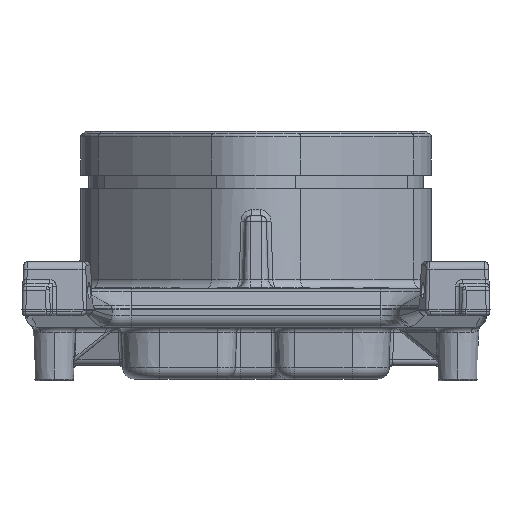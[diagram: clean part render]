
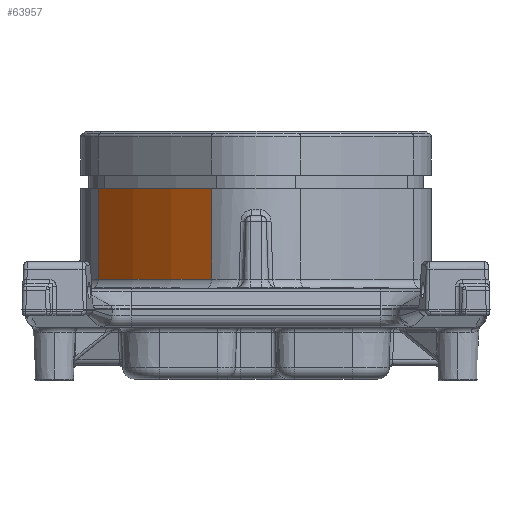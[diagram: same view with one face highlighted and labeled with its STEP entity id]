
A CAD part, left-side view. The second image highlights one B-rep face of the part: STEP entity #63957.
In plain terms, the highlighted cylindrical face has radius 150 mm (diameter 300 mm), a partial arc.
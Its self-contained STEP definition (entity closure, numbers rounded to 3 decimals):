
#18488=AXIS2_PLACEMENT_3D('Circle Axis2P3D',#18486,#18487,$) ;
#63930=AXIS2_PLACEMENT_3D('Cylinder Axis2P3D',#63927,#63928,#63929) ;
#63941=AXIS2_PLACEMENT_3D('Circle Axis2P3D',#63939,#63940,$) ;
#16159=CARTESIAN_POINT('Vertex',(-77.436,11.538,9.5)) ;
#18459=CARTESIAN_POINT('Vertex',(-49.993,41.019,9.5)) ;
#18486=CARTESIAN_POINT('Axis2P3D Location',(45.084,-75.,9.5)) ;
#63927=CARTESIAN_POINT('Axis2P3D Location',(45.084,-75.,24.)) ;
#63932=CARTESIAN_POINT('Line Origine',(-77.436,11.538,24.)) ;
#63936=CARTESIAN_POINT('Vertex',(-77.436,11.538,33.)) ;
#63939=CARTESIAN_POINT('Axis2P3D Location',(45.084,-75.,33.)) ;
#63943=CARTESIAN_POINT('Vertex',(-49.993,41.019,33.)) ;
#63946=CARTESIAN_POINT('Line Origine',(-49.993,41.019,24.)) ;
#18487=DIRECTION('Axis2P3D Direction',(-0.,0.,1.)) ;
#63928=DIRECTION('Axis2P3D Direction',(0.,0.,1.)) ;
#63929=DIRECTION('Axis2P3D XDirection',(-0.634,0.773,0.)) ;
#63933=DIRECTION('Vector Direction',(0.,0.,1.)) ;
#63940=DIRECTION('Axis2P3D Direction',(0.,0.,1.)) ;
#63947=DIRECTION('Vector Direction',(0.,0.,1.)) ;
#63934=VECTOR('Line Direction',#63933,1.) ;
#63948=VECTOR('Line Direction',#63947,1.) ;
#63952=ORIENTED_EDGE('',*,*,#63938,.T.) ;
#63953=ORIENTED_EDGE('',*,*,#63945,.F.) ;
#63954=ORIENTED_EDGE('',*,*,#63950,.F.) ;
#63955=ORIENTED_EDGE('',*,*,#18490,.F.) ;
#63957=ADVANCED_FACE('PartBody',(#63956),#63931,.T.) ;
#18489=CIRCLE('generated circle',#18488,150.) ;
#63942=CIRCLE('generated circle',#63941,150.) ;
#63931=CYLINDRICAL_SURFACE('generated cylinder',#63930,150.) ;
#18490=EDGE_CURVE('',#16160,#18460,#18489,.F.) ;
#63938=EDGE_CURVE('',#16160,#63937,#63935,.T.) ;
#63945=EDGE_CURVE('',#63944,#63937,#63942,.T.) ;
#63950=EDGE_CURVE('',#18460,#63944,#63949,.T.) ;
#63951=EDGE_LOOP('',(#63952,#63953,#63954,#63955)) ;
#63956=FACE_OUTER_BOUND('',#63951,.T.) ;
#63935=LINE('Line',#63932,#63934) ;
#63949=LINE('Line',#63946,#63948) ;
#16160=VERTEX_POINT('',#16159) ;
#18460=VERTEX_POINT('',#18459) ;
#63937=VERTEX_POINT('',#63936) ;
#63944=VERTEX_POINT('',#63943) ;
